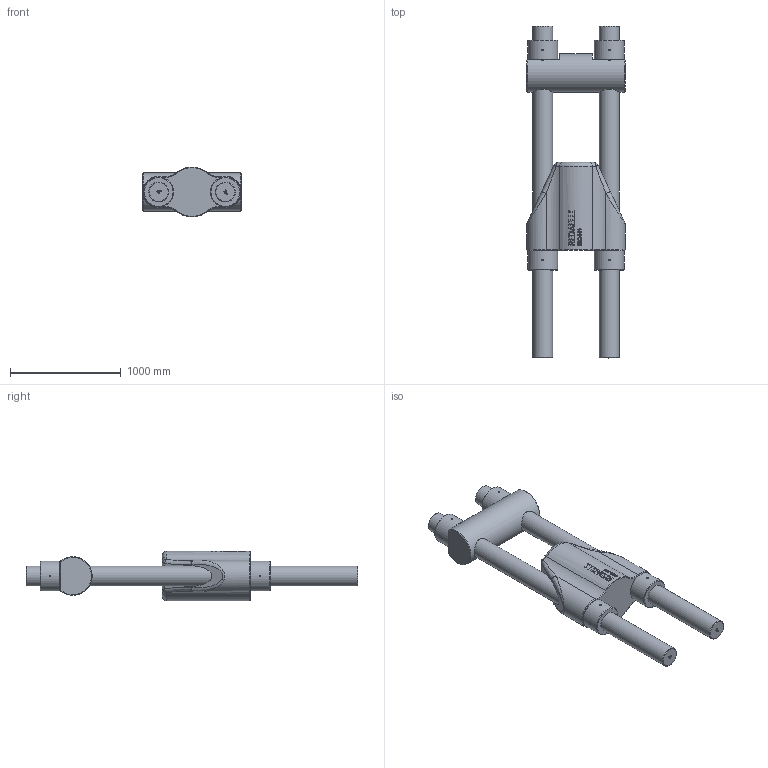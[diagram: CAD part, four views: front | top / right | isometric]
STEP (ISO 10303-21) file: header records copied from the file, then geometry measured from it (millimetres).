
FILE_DESCRIPTION(/* description */ (''),/* implementation_level */ '2;1');
FILE_NAME(/* name */ 'D:\Clienti\Redaelli (inventor)\BRC\STEP\Arrangemet\BRC144 72 111 0.stp',/* time_stamp */ '2021-05-08T08:48:22+02:00',/* author */ ('fabri'),/* organization */ (''),/* preprocessor_version */ 'ST-DEVELOPER v16.13',/* originating_system */ 'Autodesk Inventor 2018',/* authorisation */ '');
FILE_SCHEMA (('AUTOMOTIVE_DESIGN { 1 0 10303 214 3 1 1 }'));
Length unit declared in the file: millimetre
Products named in the file (5): BRC020 72 111 0; BRC020 71 112 0; BRC020 71 114 0_ROD; BRC020 71 113 0; BRC020 71 114 0_NUT
Assembly tree (8 placements, depth 2):
  BRC020 72 111 0
    BRC020 71 112 0
    BRC020 71 114 0_ROD  x2
    BRC020 71 113 0
    BRC020 71 114 0_NUT  x4
Bounding box: 890 x 3000 x 449.09 mm (x, y, z)
Volume: 394851599.4 mm3; surface area: 8521327.1 mm2
Topology: 8 solids, 8 shells, 1476 faces, 3950 edges, 2622 vertices
Faces by surface type: plane 925, bspline 427, cylinder 70, cone 30, torus 20, sphere 4
Full cylindrical faces by diameter (mm): 15 x16, 173.505 x4, 180 x2, 188 x4, 270 x4, 348 x1
Entity records: 28560 total; most frequent: CARTESIAN_POINT 9616, ORIENTED_EDGE 4298, DIRECTION 3037, EDGE_CURVE 2149, VERTEX_POINT 1432, LINE 1383, VECTOR 1383, EDGE_LOOP 925
